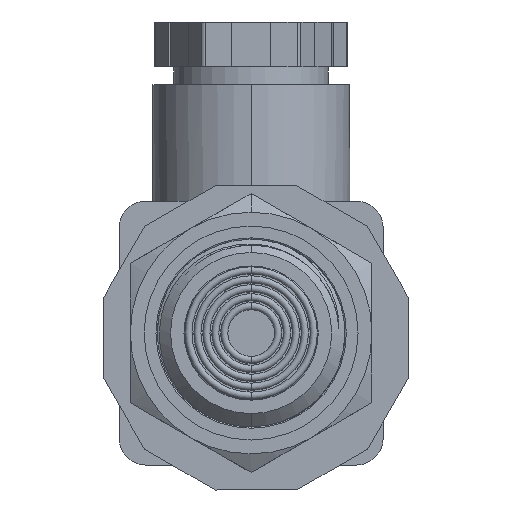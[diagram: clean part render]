
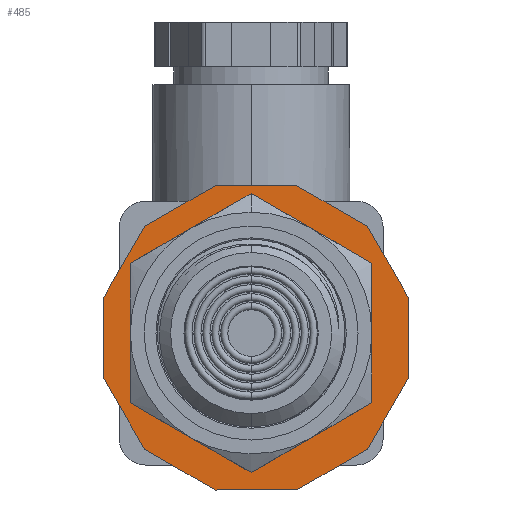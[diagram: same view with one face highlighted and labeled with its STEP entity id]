
A CAD part, front view. The second image highlights one B-rep face of the part: STEP entity #485.
In plain terms, the highlighted planar face has unit normal (0, -1, 0) as drawn and (0, 0, 1) by its records, which use the part's own axes.
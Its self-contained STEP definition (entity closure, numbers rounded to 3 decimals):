
#159 = EDGE_CURVE ( 'NONE', #7706, #8646, #2393, .T. ) ;
#313 = VERTEX_POINT ( 'NONE', #8882 ) ;
#398 = ORIENTED_EDGE ( 'NONE', *, *, #14455, .T. ) ;
#485 = ADVANCED_FACE ( 'NONE', ( #14934, #2350 ), #6380, .T. ) ;
#531 = CARTESIAN_POINT ( 'NONE',  ( 17.204, 3.818, -13.24 ) ) ;
#571 = CARTESIAN_POINT ( 'NONE',  ( -4.351, -17.737, -13.24 ) ) ;
#870 = EDGE_CURVE ( 'NONE', #11215, #7585, #13255, .T. ) ;
#882 = CARTESIAN_POINT ( 'NONE',  ( 4.759, 16.263, -13.24 ) ) ;
#965 = ORIENTED_EDGE ( 'NONE', *, *, #870, .T. ) ;
#984 = DIRECTION ( 'NONE',  ( 0.866, -0.5, 0. ) ) ;
#999 = EDGE_LOOP ( 'NONE', ( #7942, #965 ) ) ;
#1763 = CARTESIAN_POINT ( 'NONE',  ( 17.204, 3.818, -13.24 ) ) ;
#1799 = LINE ( 'NONE', #11808, #3781 ) ;
#2118 = LINE ( 'NONE', #17116, #7498 ) ;
#2350 = FACE_BOUND ( 'NONE', #999, .T. ) ;
#2373 = DIRECTION ( 'NONE',  ( 0.5, 0.866, 0. ) ) ;
#2387 = DIRECTION ( 'NONE',  ( 0., 1., 0. ) ) ;
#2390 = AXIS2_PLACEMENT_3D ( 'NONE', #9978, #15586, #11450 ) ;
#2393 = LINE ( 'NONE', #7988, #11133 ) ;
#2432 = DIRECTION ( 'NONE',  ( 0., -1., 0. ) ) ;
#2507 = CARTESIAN_POINT ( 'NONE',  ( 12.75, 0., -13.24 ) ) ;
#2548 = CARTESIAN_POINT ( 'NONE',  ( 12.649, 11.708, -13.24 ) ) ;
#3005 = CARTESIAN_POINT ( 'NONE',  ( -12.241, 11.708, -13.24 ) ) ;
#3206 = ORIENTED_EDGE ( 'NONE', *, *, #13118, .T. ) ;
#3409 = VECTOR ( 'NONE', #2432, 1000. ) ;
#3482 = ORIENTED_EDGE ( 'NONE', *, *, #14914, .T. ) ;
#3694 = CARTESIAN_POINT ( 'NONE',  ( -12.241, 11.708, -13.24 ) ) ;
#3781 = VECTOR ( 'NONE', #14650, 1000. ) ;
#3848 = VERTEX_POINT ( 'NONE', #2548 ) ;
#3852 = CARTESIAN_POINT ( 'NONE',  ( 17.204, -5.292, -13.24 ) ) ;
#3856 = CARTESIAN_POINT ( 'NONE',  ( -16.796, -5.292, -13.24 ) ) ;
#3907 = EDGE_CURVE ( 'NONE', #7585, #11215, #11202, .T. ) ;
#4364 = CARTESIAN_POINT ( 'NONE',  ( -16.796, 3.818, -13.24 ) ) ;
#4777 = CARTESIAN_POINT ( 'NONE',  ( -16.796, -5.292, -13.24 ) ) ;
#4859 = ORIENTED_EDGE ( 'NONE', *, *, #9605, .T. ) ;
#5238 = EDGE_CURVE ( 'NONE', #313, #11857, #1799, .T. ) ;
#5428 = VERTEX_POINT ( 'NONE', #6914 ) ;
#5793 = VERTEX_POINT ( 'NONE', #3694 ) ;
#5877 = LINE ( 'NONE', #1763, #13676 ) ;
#6012 = DIRECTION ( 'NONE',  ( -0.5, -0.866, 0. ) ) ;
#6236 = VECTOR ( 'NONE', #7667, 1000. ) ;
#6238 = VERTEX_POINT ( 'NONE', #4364 ) ;
#6380 = PLANE ( 'NONE',  #17889 ) ;
#6494 = VERTEX_POINT ( 'NONE', #571 ) ;
#6537 = ORIENTED_EDGE ( 'NONE', *, *, #14501, .T. ) ;
#6786 = EDGE_CURVE ( 'NONE', #6238, #15466, #11908, .T. ) ;
#6914 = CARTESIAN_POINT ( 'NONE',  ( 17.204, -5.292, -13.24 ) ) ;
#7498 = VECTOR ( 'NONE', #11774, 1000. ) ;
#7585 = VERTEX_POINT ( 'NONE', #8886 ) ;
#7667 = DIRECTION ( 'NONE',  ( 1., 0., 0. ) ) ;
#7706 = VERTEX_POINT ( 'NONE', #882 ) ;
#7858 = DIRECTION ( 'NONE',  ( 1., 0., 0. ) ) ;
#7942 = ORIENTED_EDGE ( 'NONE', *, *, #3907, .T. ) ;
#7963 = CARTESIAN_POINT ( 'NONE',  ( -12.241, -13.182, -13.24 ) ) ;
#7988 = CARTESIAN_POINT ( 'NONE',  ( 4.759, 16.263, -13.24 ) ) ;
#8409 = VECTOR ( 'NONE', #2387, 1000. ) ;
#8567 = AXIS2_PLACEMENT_3D ( 'NONE', #11625, #11442, #17242 ) ;
#8646 = VERTEX_POINT ( 'NONE', #12573 ) ;
#8700 = LINE ( 'NONE', #3005, #8911 ) ;
#8794 = ORIENTED_EDGE ( 'NONE', *, *, #159, .T. ) ;
#8882 = CARTESIAN_POINT ( 'NONE',  ( 4.759, -17.737, -13.24 ) ) ;
#8886 = CARTESIAN_POINT ( 'NONE',  ( -12.75, 0., -13.24 ) ) ;
#8911 = VECTOR ( 'NONE', #6012, 1000. ) ;
#9605 = EDGE_CURVE ( 'NONE', #5793, #6238, #8700, .T. ) ;
#9651 = VERTEX_POINT ( 'NONE', #10174 ) ;
#9791 = ORIENTED_EDGE ( 'NONE', *, *, #6786, .T. ) ;
#9797 = VECTOR ( 'NONE', #2373, 1000. ) ;
#9859 = CARTESIAN_POINT ( 'NONE',  ( -4.351, 16.263, -13.24 ) ) ;
#9978 = CARTESIAN_POINT ( 'NONE',  ( 0., 0., -13.24 ) ) ;
#10016 = CARTESIAN_POINT ( 'NONE',  ( 12.649, -13.182, -13.24 ) ) ;
#10158 = VECTOR ( 'NONE', #16946, 1000. ) ;
#10174 = CARTESIAN_POINT ( 'NONE',  ( -12.241, -13.182, -13.24 ) ) ;
#10378 = LINE ( 'NONE', #13307, #9797 ) ;
#10645 = VECTOR ( 'NONE', #12543, 1000. ) ;
#11133 = VECTOR ( 'NONE', #13599, 1000. ) ;
#11202 = CIRCLE ( 'NONE', #2390, 12.75 ) ;
#11215 = VERTEX_POINT ( 'NONE', #2507 ) ;
#11442 = DIRECTION ( 'NONE',  ( 0., 0., -1. ) ) ;
#11450 = DIRECTION ( 'NONE',  ( 1., 0., 0. ) ) ;
#11588 = ORIENTED_EDGE ( 'NONE', *, *, #14638, .T. ) ;
#11625 = CARTESIAN_POINT ( 'NONE',  ( 0., 0., -13.24 ) ) ;
#11774 = DIRECTION ( 'NONE',  ( -0.866, 0.5, 0. ) ) ;
#11808 = CARTESIAN_POINT ( 'NONE',  ( 4.759, -17.737, -13.24 ) ) ;
#11857 = VERTEX_POINT ( 'NONE', #10016 ) ;
#11861 = DIRECTION ( 'NONE',  ( -0.5, 0.866, 0. ) ) ;
#11908 = LINE ( 'NONE', #13833, #3409 ) ;
#12312 = LINE ( 'NONE', #3852, #8409 ) ;
#12455 = EDGE_CURVE ( 'NONE', #6494, #313, #13010, .T. ) ;
#12523 = VECTOR ( 'NONE', #984, 1000. ) ;
#12543 = DIRECTION ( 'NONE',  ( 0.5, -0.866, 0. ) ) ;
#12573 = CARTESIAN_POINT ( 'NONE',  ( -4.351, 16.263, -13.24 ) ) ;
#12783 = EDGE_CURVE ( 'NONE', #15466, #9651, #14528, .T. ) ;
#12949 = ORIENTED_EDGE ( 'NONE', *, *, #14683, .T. ) ;
#13010 = LINE ( 'NONE', #14478, #6236 ) ;
#13118 = EDGE_CURVE ( 'NONE', #11857, #5428, #10378, .T. ) ;
#13255 = CIRCLE ( 'NONE', #8567, 12.75 ) ;
#13307 = CARTESIAN_POINT ( 'NONE',  ( 12.649, -13.182, -13.24 ) ) ;
#13599 = DIRECTION ( 'NONE',  ( -1., 0., 0. ) ) ;
#13676 = VECTOR ( 'NONE', #11861, 1000. ) ;
#13716 = ORIENTED_EDGE ( 'NONE', *, *, #12783, .T. ) ;
#13759 = EDGE_LOOP ( 'NONE', ( #3206, #12949, #11588, #6537, #8794, #398, #4859, #9791, #13716, #3482, #18021, #15919 ) ) ;
#13833 = CARTESIAN_POINT ( 'NONE',  ( -16.796, 3.818, -13.24 ) ) ;
#13994 = LINE ( 'NONE', #9859, #10158 ) ;
#14455 = EDGE_CURVE ( 'NONE', #8646, #5793, #13994, .T. ) ;
#14478 = CARTESIAN_POINT ( 'NONE',  ( -4.351, -17.737, -13.24 ) ) ;
#14501 = EDGE_CURVE ( 'NONE', #3848, #7706, #2118, .T. ) ;
#14528 = LINE ( 'NONE', #4777, #10645 ) ;
#14638 = EDGE_CURVE ( 'NONE', #17718, #3848, #5877, .T. ) ;
#14650 = DIRECTION ( 'NONE',  ( 0.866, 0.5, 0. ) ) ;
#14683 = EDGE_CURVE ( 'NONE', #5428, #17718, #12312, .T. ) ;
#14749 = CARTESIAN_POINT ( 'NONE',  ( -16.796, -17.737, -13.24 ) ) ;
#14914 = EDGE_CURVE ( 'NONE', #9651, #6494, #16350, .T. ) ;
#14934 = FACE_OUTER_BOUND ( 'NONE', #13759, .T. ) ;
#15466 = VERTEX_POINT ( 'NONE', #3856 ) ;
#15586 = DIRECTION ( 'NONE',  ( 0., 0., -1. ) ) ;
#15919 = ORIENTED_EDGE ( 'NONE', *, *, #5238, .T. ) ;
#16061 = DIRECTION ( 'NONE',  ( 0., 0., 1. ) ) ;
#16350 = LINE ( 'NONE', #7963, #12523 ) ;
#16946 = DIRECTION ( 'NONE',  ( -0.866, -0.5, 0. ) ) ;
#17116 = CARTESIAN_POINT ( 'NONE',  ( 12.649, 11.708, -13.24 ) ) ;
#17242 = DIRECTION ( 'NONE',  ( 1., 0., 0. ) ) ;
#17718 = VERTEX_POINT ( 'NONE', #531 ) ;
#17889 = AXIS2_PLACEMENT_3D ( 'NONE', #14749, #16061, #7858 ) ;
#18021 = ORIENTED_EDGE ( 'NONE', *, *, #12455, .T. ) ;
